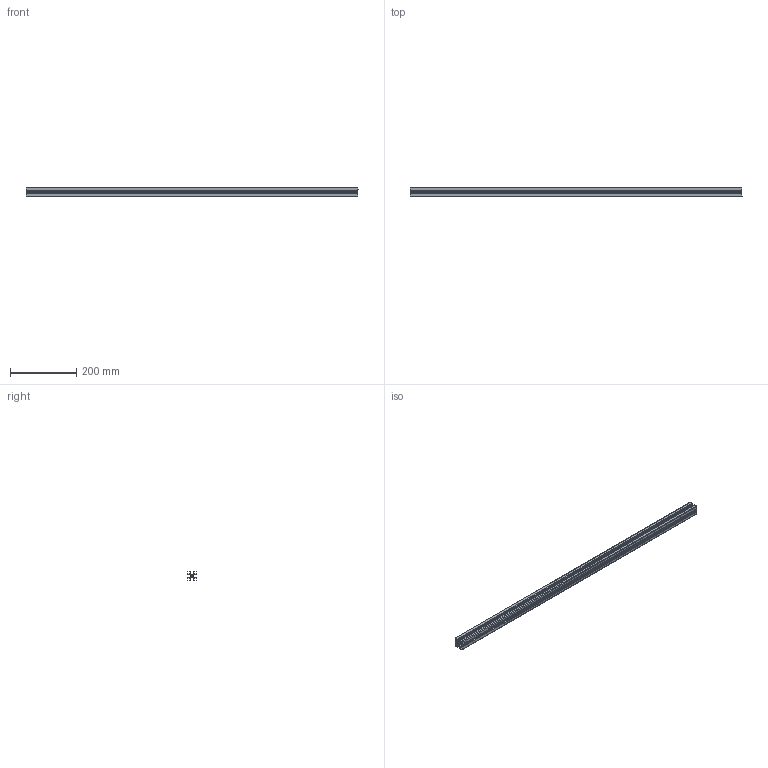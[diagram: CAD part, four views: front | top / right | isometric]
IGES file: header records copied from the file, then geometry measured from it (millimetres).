
Start section: SolidWorks IGES file using analytic representation for surfaces
Bounding box: 1000 x 30 x 30 mm (x, y, z)
Surface area: 352155.5 mm2 (no closed solid volume)
Topology: 0 solids, 0 shells, 178 faces, 1732 edges, 1732 vertices
Faces by surface type: revolution 104, bspline 74
